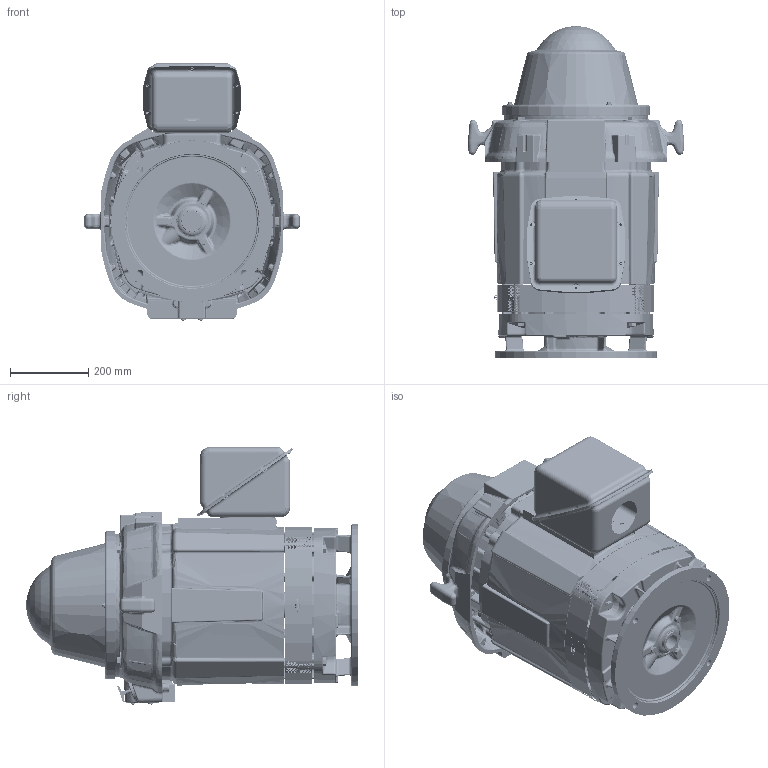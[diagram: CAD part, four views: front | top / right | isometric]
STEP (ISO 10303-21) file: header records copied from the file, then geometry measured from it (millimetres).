
FILE_DESCRIPTION((''),'2;1');
FILE_NAME('320_RU_165_WMSTL_ASM','2019-11-21T10:32:32',('EMD2335'),('Nidec Motor Corporation'),'CREO PARAMETRIC BY PTC INC, 2018420','CREO PARAMETRIC BY PTC INC, 2018420','');
FILE_SCHEMA(('CONFIG_CONTROL_DESIGN'));
Products named in the file (38): 2076243; 0192169; 2087127-000; 0132591; 0521682; 192215_SPACER_BEARING; 0192196; 0002430; 0010041; 0005741-000; 0003152; 0582109; 0530429; 0005839; 0106957; 0192218_SHAFT; 083456_SH-215; 0966421; 0134378; 0344625; 0387851-001; 0450438; 0966424-_CAP; 2079261; 2081471-000; 2079263; 2083842-SCRW; 0136805; 0167905; 0193118; 0134459-SPR; 0966417-0000; 0966419; 2048939; 2048988-OBC; 2048940; 320-400-WM-STL-OB_ASM; 320_RU_165_WMSTL_ASM
Assembly tree (55 placements, depth 3):
  320_RU_165_WMSTL_ASM
    2076243
    0192169
    2087127-000
    0132591
    0521682
    192215_SPACER_BEARING
    0192196
    0002430
    0010041
    0005741-000  x4
    0003152  x3
    0582109
    0530429
    0005839  x3
    0106957  x4
    0192218_SHAFT
    083456_SH-215
    0966421
    0134378  x4
    0344625
    0387851-001
    0450438
    0966424-_CAP
    2079261
    2081471-000
    2079263
    2083842-SCRW  x4
    0136805
    0167905  x3
    0193118
    0134459-SPR
    0966417-0000
    0966419
    320-400-WM-STL-OB_ASM
      2048939
      2048988-OBC
      2048940
Bounding box: 551.18 x 846.31 x 656.32 mm (x, y, z)
Volume: 21253064.7 mm3; surface area: 6561320.9 mm2
Topology: 62 solids, 108 shells, 10960 faces, 27401 edges, 16664 vertices
Faces by surface type: bspline 3872, plane 2839, cylinder 2139, torus 1056, cone 704, sphere 342, extrusion 8
Entity records: 462544 total; most frequent: CARTESIAN_POINT 240850, ORIENTED_EDGE 51593, DIRECTION 38111, EDGE_CURVE 25898, VERTEX_POINT 15736, AXIS2_PLACEMENT_3D 14730, EDGE_LOOP 11159, FACE_OUTER_BOUND 10401
